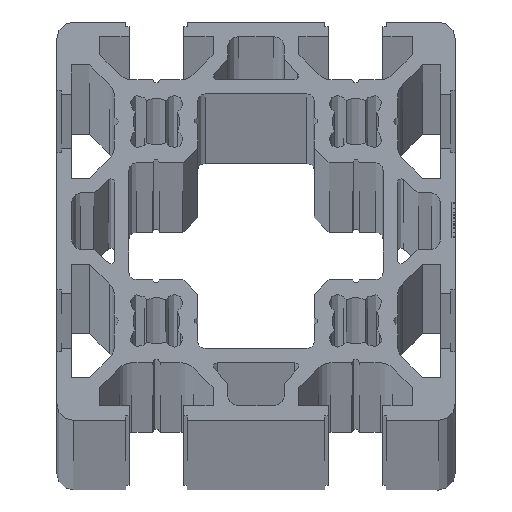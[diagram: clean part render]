
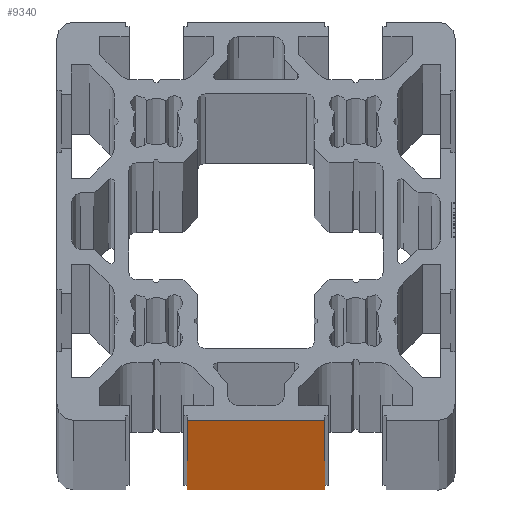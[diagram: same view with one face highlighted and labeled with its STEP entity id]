
A CAD part, top view. The second image highlights one B-rep face of the part: STEP entity #9340.
In plain terms, the highlighted planar face has unit normal (0, -1, 0).
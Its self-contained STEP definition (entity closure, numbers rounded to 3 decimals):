
#163 = FACE_OUTER_BOUND ( 'NONE', #4979, .T. ) ;
#185 = EDGE_CURVE ( 'NONE', #11772, #13791, #5666, .T. ) ;
#663 = DIRECTION ( 'NONE',  ( 1., 0., 0. ) ) ;
#2135 = DIRECTION ( 'NONE',  ( 0., 0., 1. ) ) ;
#3127 = DIRECTION ( 'NONE',  ( 0., 0., 1. ) ) ;
#4502 = EDGE_CURVE ( 'NONE', #9597, #6052, #9029, .T. ) ;
#4905 = ORIENTED_EDGE ( 'NONE', *, *, #185, .T. ) ;
#4979 = EDGE_LOOP ( 'NONE', ( #5538, #15019, #5803, #4905 ) ) ;
#5240 = CARTESIAN_POINT ( 'NONE',  ( 19.648, 0., -6000. ) ) ;
#5466 = AXIS2_PLACEMENT_3D ( 'NONE', #5240, #7592, #663 ) ;
#5538 = ORIENTED_EDGE ( 'NONE', *, *, #12515, .F. ) ;
#5666 = LINE ( 'NONE', #8096, #8771 ) ;
#5803 = ORIENTED_EDGE ( 'NONE', *, *, #6747, .T. ) ;
#6052 = VERTEX_POINT ( 'NONE', #11360 ) ;
#6747 = EDGE_CURVE ( 'NONE', #9597, #11772, #13353, .T. ) ;
#7154 = CARTESIAN_POINT ( 'NONE',  ( 19.648, 0., 0. ) ) ;
#7592 = DIRECTION ( 'NONE',  ( 0., -1., 0. ) ) ;
#8096 = CARTESIAN_POINT ( 'NONE',  ( 40.352, 0., -6000. ) ) ;
#8333 = DIRECTION ( 'NONE',  ( 1., 0., 0. ) ) ;
#8375 = DIRECTION ( 'NONE',  ( 1., 0., 0. ) ) ;
#8771 = VECTOR ( 'NONE', #2135, 1000. ) ;
#9029 = LINE ( 'NONE', #10931, #14829 ) ;
#9313 = CARTESIAN_POINT ( 'NONE',  ( 40.352, 0., 0. ) ) ;
#9340 = ADVANCED_FACE ( 'NONE', ( #163 ), #14538, .T. ) ;
#9597 = VERTEX_POINT ( 'NONE', #13912 ) ;
#9733 = CARTESIAN_POINT ( 'NONE',  ( 40.352, 0., -6000. ) ) ;
#10604 = VECTOR ( 'NONE', #8375, 1000. ) ;
#10674 = CARTESIAN_POINT ( 'NONE',  ( 19.648, 0., -6000. ) ) ;
#10931 = CARTESIAN_POINT ( 'NONE',  ( 19.648, 0., -6000. ) ) ;
#11145 = VECTOR ( 'NONE', #8333, 1000. ) ;
#11360 = CARTESIAN_POINT ( 'NONE',  ( 19.648, 0., 0. ) ) ;
#11772 = VERTEX_POINT ( 'NONE', #9733 ) ;
#12515 = EDGE_CURVE ( 'NONE', #6052, #13791, #14248, .T. ) ;
#13353 = LINE ( 'NONE', #10674, #10604 ) ;
#13791 = VERTEX_POINT ( 'NONE', #9313 ) ;
#13912 = CARTESIAN_POINT ( 'NONE',  ( 19.648, 0., -6000. ) ) ;
#14248 = LINE ( 'NONE', #7154, #11145 ) ;
#14538 = PLANE ( 'NONE',  #5466 ) ;
#14829 = VECTOR ( 'NONE', #3127, 1000. ) ;
#15019 = ORIENTED_EDGE ( 'NONE', *, *, #4502, .F. ) ;
